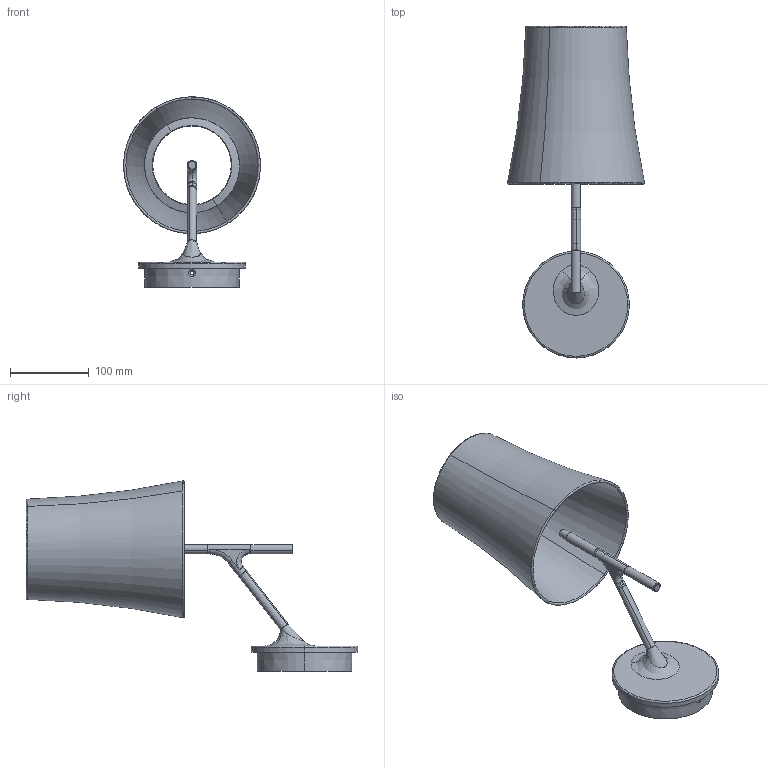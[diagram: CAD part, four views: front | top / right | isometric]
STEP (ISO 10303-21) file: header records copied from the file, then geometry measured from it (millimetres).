
FILE_DESCRIPTION (( 'STEP AP214' ), '1' );
FILE_NAME ('221_STD_W_PL_3D.STEP', '2021-05-04T08:31:01', ( '' ), ( '' ), 'SwSTEP 2.0', 'SolidWorks 2021', '' );
FILE_SCHEMA (( 'AUTOMOTIVE_DESIGN' ));
Length unit declared in the file: millimetre
Products named in the file (1): 221_STD_W_PL_3D
Bounding box: 174.32 x 422.62 x 242.44 mm (x, y, z)
Volume: 401385.5 mm3; surface area: 267712.4 mm2
Topology: 6 solids, 6 shells, 163 faces, 375 edges, 230 vertices
Faces by surface type: cylinder 54, cone 44, torus 27, plane 23, bspline 15
Entity records: 10404 total; most frequent: CARTESIAN_POINT 4900, DIRECTION 773, ORIENTED_EDGE 748, EDGE_CURVE 374, AXIS2_PLACEMENT_3D 341, VERTEX_POINT 230, CIRCLE 192, EDGE_LOOP 186
